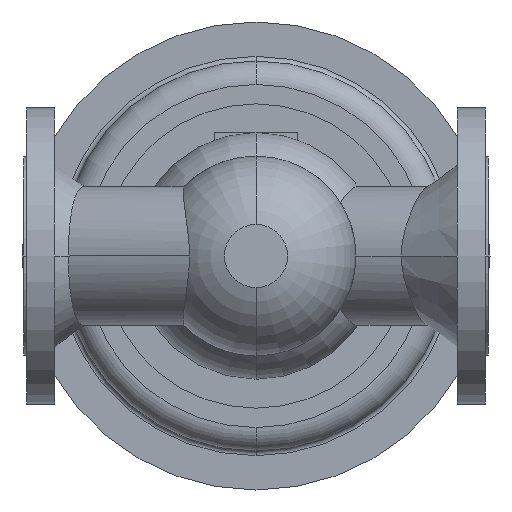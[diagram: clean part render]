
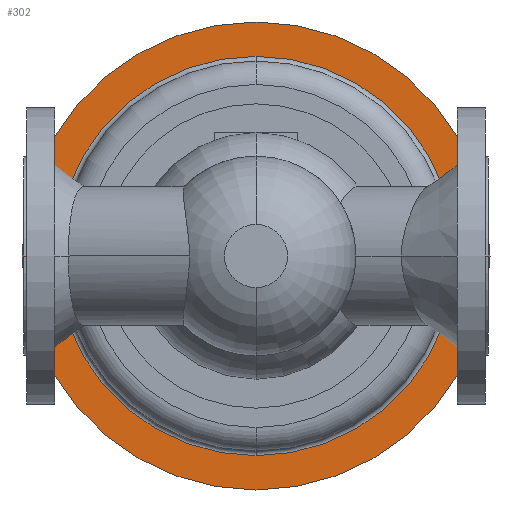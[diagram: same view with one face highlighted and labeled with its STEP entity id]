
A CAD part, front view. The second image highlights one B-rep face of the part: STEP entity #302.
In plain terms, the highlighted planar face has unit normal (0, -1, 0).
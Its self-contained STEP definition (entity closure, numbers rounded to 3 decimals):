
#302 = ADVANCED_FACE( '', ( #708, #709 ), #710, .T. );
#708 = FACE_OUTER_BOUND( '', #1123, .T. );
#709 = FACE_BOUND( '', #1124, .T. );
#710 = PLANE( '', #1125 );
#1123 = EDGE_LOOP( '', ( #2577, #2578 ) );
#1124 = EDGE_LOOP( '', ( #2579, #2580, #2581 ) );
#1125 = AXIS2_PLACEMENT_3D( '', #2582, #2583, #2584 );
#2577 = ORIENTED_EDGE( '', *, *, #2924, .F. );
#2578 = ORIENTED_EDGE( '', *, *, #3095, .F. );
#2579 = ORIENTED_EDGE( '', *, *, #3093, .T. );
#2580 = ORIENTED_EDGE( '', *, *, #2931, .T. );
#2581 = ORIENTED_EDGE( '', *, *, #3094, .T. );
#2582 = CARTESIAN_POINT( '', ( 288., 499.5, 0. ) );
#2583 = DIRECTION( '', ( 0., -1., 0. ) );
#2584 = DIRECTION( '', ( -1., 0., 0. ) );
#2924 = EDGE_CURVE( '', #3586, #3589, #3590, .T. );
#2931 = EDGE_CURVE( '', #3595, #3601, #3603, .T. );
#3093 = EDGE_CURVE( '', #3872, #3595, #3873, .T. );
#3094 = EDGE_CURVE( '', #3601, #3872, #3874, .T. );
#3095 = EDGE_CURVE( '', #3589, #3586, #3875, .T. );
#3586 = VERTEX_POINT( '', #5100 );
#3589 = VERTEX_POINT( '', #5104 );
#3590 = CIRCLE( '', #5105, 150. );
#3595 = VERTEX_POINT( '', #5111 );
#3601 = VERTEX_POINT( '', #5117 );
#3603 = CIRCLE( '', #5119, 128. );
#3872 = VERTEX_POINT( '', #5457 );
#3873 = CIRCLE( '', #5458, 128. );
#3874 = CIRCLE( '', #5459, 128. );
#3875 = CIRCLE( '', #5460, 150. );
#5100 = CARTESIAN_POINT( '', ( 299., 499.5, 0. ) );
#5104 = CARTESIAN_POINT( '', ( -1., 499.5, 0. ) );
#5105 = AXIS2_PLACEMENT_3D( '', #6036, #6037, #6038 );
#5111 = CARTESIAN_POINT( '', ( 149., 499.5, -128. ) );
#5117 = CARTESIAN_POINT( '', ( 149., 499.5, 128. ) );
#5119 = AXIS2_PLACEMENT_3D( '', #6055, #6056, #6057 );
#5457 = CARTESIAN_POINT( '', ( 277., 499.5, 0. ) );
#5458 = AXIS2_PLACEMENT_3D( '', #6403, #6404, #6405 );
#5459 = AXIS2_PLACEMENT_3D( '', #6406, #6407, #6408 );
#5460 = AXIS2_PLACEMENT_3D( '', #6409, #6410, #6411 );
#6036 = CARTESIAN_POINT( '', ( 149., 499.5, 0. ) );
#6037 = DIRECTION( '', ( 0., 1., 0. ) );
#6038 = DIRECTION( '', ( 1., 0., 0. ) );
#6055 = CARTESIAN_POINT( '', ( 149., 499.5, 0. ) );
#6056 = DIRECTION( '', ( 0., 1., 0. ) );
#6057 = DIRECTION( '', ( 1., 0., 0. ) );
#6403 = CARTESIAN_POINT( '', ( 149., 499.5, 0. ) );
#6404 = DIRECTION( '', ( 0., 1., 0. ) );
#6405 = DIRECTION( '', ( 1., 0., 0. ) );
#6406 = CARTESIAN_POINT( '', ( 149., 499.5, 0. ) );
#6407 = DIRECTION( '', ( 0., 1., 0. ) );
#6408 = DIRECTION( '', ( 1., 0., 0. ) );
#6409 = CARTESIAN_POINT( '', ( 149., 499.5, 0. ) );
#6410 = DIRECTION( '', ( 0., 1., 0. ) );
#6411 = DIRECTION( '', ( 1., 0., 0. ) );
